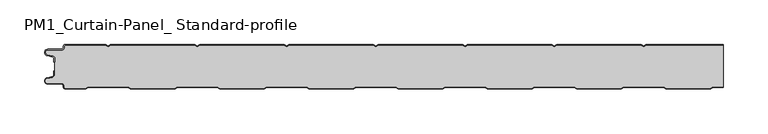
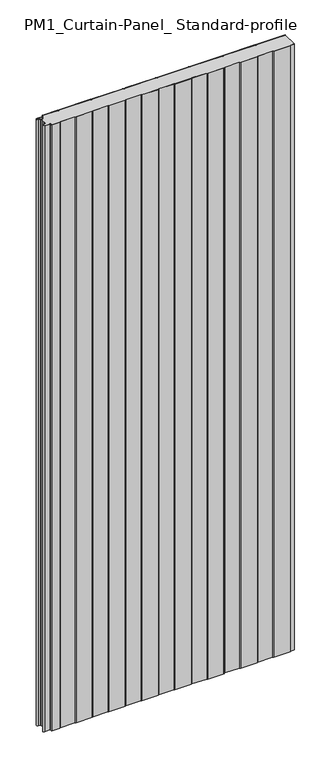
"""IFC4 building model written with IfcOpenShell, lengths in millimetres: plate geometry, PM1_Curtain-Panel_ Standard-profile : ACH_PM1_Acoustic-Sectioning-Panel_50M."""

from ifc_helpers import new_model, si_unit, point, frame_2d, origin, origin_with_axes, place, context, project, spatial, polyline, circle_curve, trimmed, segment, composite_curve, outline, extrude, source, transform, mapped, element, save


def pm1_curtain_panel_standard_profile_199faaa9(model_context):
    return source(origin(), model_context, "Body", "SweptSolid", [
        extrude(outline(composite_curve([segment(trimmed(circle_curve(frame_2d((-377.0119739, -15.878557)), 2.0), [point((-375.0119739, -15.878557))], [point((-376.5620718, -13.9298169))], True, "CARTESIAN"), True, "CONTINUOUS"), segment(polyline([(-376.5620718, -13.9298169), (-382.7217978, -12.507732)]), True, "CONTINUOUS"), segment(trimmed(circle_curve(frame_2d((-381.9119739, -9.0)), 3.6), [point((-382.7217978, -12.507732))], [point((-381.9119739, -5.4))], False, "CARTESIAN"), True, "CONTINUOUS"), segment(polyline([(-381.9119739, -5.4), (-366.4119739, -5.4)]), True, "CONTINUOUS"), segment(trimmed(circle_curve(frame_2d((-366.4119739, -3.4)), 2.0), [point((-366.4119739, -5.4))], [point((-364.4119739, -3.4))], True, "CARTESIAN"), True, "CONTINUOUS"), segment(polyline([(-364.4119739, -3.4), (-364.4119739, -2.0)]), True, "CONTINUOUS"), segment(trimmed(circle_curve(frame_2d((-362.4119739, -2.0)), 2.0), [point((-364.4119739, -2.0))], [point((-362.4119739, 0.0))], False, "CARTESIAN"), True, "CONTINUOUS"), segment(polyline([(-362.4119739, 0.0), (-317.1119734, 0.0), (-314.4119739, -1.5588455), (-311.7119745, 0.0), (-217.1119734, 0.0), (-214.4119739, -1.5588455), (-211.7119745, 0.0), (-117.1119734, 0.0), (-114.4119739, -1.5588455), (-111.7119745, 0.0), (-17.1119734, 0.0), (-14.4119739, -1.5588455), (-11.7119745, 0.0), (82.8880266, 0.0), (85.5880261, -1.5588455), (88.2880255, 0.0), (182.8880266, 0.0), (185.5880261, -1.5588455), (188.2880255, 0.0), (282.8880266, 0.0), (285.5880261, -1.5588455), (288.2880255, 0.0), (375.0119739, 0.0), (375.0119739, -0.8), (288.5023849, -0.8), (285.5880261, -2.482606), (282.6736672, -0.8), (188.5023849, -0.8), (185.5880261, -2.482606), (182.6736672, -0.8), (88.5023849, -0.8), (85.5880261, -2.482606), (82.6736672, -0.8), (-11.4976151, -0.8), (-14.4119739, -2.482606), (-17.3263328, -0.8), (-111.4976151, -0.8), (-114.4119739, -2.482606), (-117.3263328, -0.8), (-211.4976151, -0.8), (-214.4119739, -2.482606), (-217.3263328, -0.8), (-311.4976151, -0.8), (-314.4119739, -2.482606), (-317.3263328, -0.8), (-362.4119739, -0.8)]), True, "CONTINUOUS"), segment(trimmed(circle_curve(frame_2d((-362.4119739, -2.0)), 1.2), [point((-362.4119739, -0.8))], [point((-363.6119739, -2.0))], True, "CARTESIAN"), True, "CONTINUOUS"), segment(polyline([(-363.6119739, -2.0), (-363.6119739, -3.4)]), True, "CONTINUOUS"), segment(trimmed(circle_curve(frame_2d((-366.4119739, -3.4)), 2.8), [point((-363.6119739, -3.4))], [point((-366.4119739, -6.2))], False, "CARTESIAN"), True, "CONTINUOUS"), segment(polyline([(-366.4119739, -6.2), (-381.9119739, -6.2)]), True, "CONTINUOUS"), segment(trimmed(circle_curve(frame_2d((-381.9119739, -9.0)), 2.8), [point((-381.9119739, -6.2))], [point((-382.541837, -11.7282362))], True, "CARTESIAN"), True, "CONTINUOUS"), segment(polyline([(-382.541837, -11.7282362), (-376.3821109, -13.150321)]), True, "CONTINUOUS"), segment(trimmed(circle_curve(frame_2d((-377.0119739, -15.878557)), 2.8), [point((-376.3821109, -13.150321))], [point((-374.2119739, -15.878557))], False, "CARTESIAN"), True, "CONTINUOUS"), segment(polyline([(-374.2119739, -15.878557), (-374.2119739, -20.0), (-375.0119739, -20.0), (-375.0119739, -15.878557)]), True, "CONTINUOUS")], self_intersect=False)), origin_with_axes(), (0.0, 0.0, 1.0), 1945.7507136),
        extrude(outline(composite_curve([segment(polyline([(-374.2119739, -34.121443), (-374.2119739, -15.8785573)]), True, "CONTINUOUS"), segment(trimmed(circle_curve(frame_2d((-377.0119739, -15.8785573)), 2.8), [point((-374.2119739, -15.8785573))], [point((-376.3821109, -13.1503212))], True, "CARTESIAN"), True, "CONTINUOUS"), segment(polyline([(-376.3821109, -13.1503212), (-382.541837, -11.7282362)]), True, "CONTINUOUS"), segment(trimmed(circle_curve(frame_2d((-381.911974, -9.0)), 2.8), [point((-382.541837, -11.7282362))], [point((-381.911974, -6.2))], False, "CARTESIAN"), True, "CONTINUOUS"), segment(polyline([(-381.911974, -6.2), (-366.411974, -6.2)]), True, "CONTINUOUS"), segment(trimmed(circle_curve(frame_2d((-366.411974, -3.4)), 2.8), [point((-366.411974, -6.2))], [point((-363.611974, -3.4))], True, "CARTESIAN"), True, "CONTINUOUS"), segment(polyline([(-363.611974, -3.4), (-363.611974, -2.0)]), True, "CONTINUOUS"), segment(trimmed(circle_curve(frame_2d((-362.411974, -2.0)), 1.2), [point((-363.611974, -2.0))], [point((-362.411974, -0.8))], False, "CARTESIAN"), True, "CONTINUOUS"), segment(polyline([(-362.411974, -0.8), (-317.3263329, -0.8), (-314.411974, -2.482606), (-311.4976152, -0.8), (-217.3263329, -0.8), (-214.411974, -2.482606), (-211.4976152, -0.8), (-117.3263329, -0.8), (-114.411974, -2.482606), (-111.4976152, -0.8), (-17.3263329, -0.8), (-14.411974, -2.482606), (-11.4976152, -0.8), (82.6736671, -0.8), (85.588026, -2.482606), (88.5023848, -0.8), (182.6736671, -0.8), (185.588026, -2.482606), (188.5023848, -0.8), (282.6736671, -0.8), (285.588026, -2.482606), (288.5023848, -0.8), (375.0119739, -0.8), (375.0119739, -47.7), (362.9717445, -47.7), (360.3736669, -49.2), (310.7985382, -49.2), (308.2004606, -47.7), (262.9717445, -47.7), (260.3736669, -49.2), (210.7985382, -49.2), (208.2004606, -47.7), (162.9717445, -47.7), (160.3736669, -49.2), (110.7985382, -49.2), (108.2004606, -47.7), (62.9717445, -47.7), (60.3736669, -49.2), (10.7985382, -49.2), (8.2004606, -47.7), (-37.0282555, -47.7), (-39.6263331, -49.2), (-89.2014618, -49.2), (-91.7995394, -47.7), (-137.0282555, -47.7), (-139.6263331, -49.2), (-189.2014618, -49.2), (-191.7995394, -47.7), (-237.0282555, -47.7), (-239.6263331, -49.2), (-289.2014618, -49.2), (-291.7995394, -47.7), (-337.0282555, -47.7), (-339.6263331, -49.2), (-362.4119739, -49.2)]), True, "CONTINUOUS"), segment(trimmed(circle_curve(frame_2d((-362.4119739, -48.0)), 1.2), [point((-362.4119739, -49.2))], [point((-363.6119739, -48.0))], False, "CARTESIAN"), True, "CONTINUOUS"), segment(polyline([(-363.6119739, -48.0), (-363.6119739, -46.5999998)]), True, "CONTINUOUS"), segment(trimmed(circle_curve(frame_2d((-366.4119739, -46.5999998)), 2.8), [point((-363.6119739, -46.5999998))], [point((-366.4119739, -43.7999998))], True, "CARTESIAN"), True, "CONTINUOUS"), segment(polyline([(-366.4119739, -43.7999998), (-381.9119739, -43.7999998)]), True, "CONTINUOUS"), segment(trimmed(circle_curve(frame_2d((-381.9119739, -41.0)), 2.7999998), [point((-381.9119739, -43.7999998))], [point((-382.5418369, -38.271764))], False, "CARTESIAN"), True, "CONTINUOUS"), segment(polyline([(-382.5418369, -38.271764), (-376.3821109, -36.8496792)]), True, "CONTINUOUS"), segment(trimmed(circle_curve(frame_2d((-377.0119739, -34.121443)), 2.8), [point((-376.3821109, -36.8496792))], [point((-374.2119739, -34.121443))], True, "CARTESIAN"), True, "CONTINUOUS")], self_intersect=False)), origin_with_axes(), (0.0, 0.0, 1.0), 1945.7507136),
        extrude(outline(composite_curve([segment(trimmed(circle_curve(frame_2d((-362.4119739, -48.0)), 2.0), [point((-362.4119739, -50.0))], [point((-364.4119739, -48.0))], False, "CARTESIAN"), True, "CONTINUOUS"), segment(polyline([(-364.4119739, -48.0), (-364.4119739, -46.6)]), True, "CONTINUOUS"), segment(trimmed(circle_curve(frame_2d((-366.4119739, -46.6)), 2.0), [point((-364.4119739, -46.6))], [point((-366.4119739, -44.6))], True, "CARTESIAN"), True, "CONTINUOUS"), segment(polyline([(-366.4119739, -44.6), (-381.9119739, -44.6)]), True, "CONTINUOUS"), segment(trimmed(circle_curve(frame_2d((-381.9119739, -41.0)), 3.6), [point((-381.9119739, -44.6))], [point((-382.7217979, -37.4922678))], False, "CARTESIAN"), True, "CONTINUOUS"), segment(polyline([(-382.7217979, -37.4922678), (-376.5620718, -36.070183)]), True, "CONTINUOUS"), segment(trimmed(circle_curve(frame_2d((-377.0119739, -34.121443)), 2.0), [point((-376.5620718, -36.070183))], [point((-375.0119739, -34.121443))], True, "CARTESIAN"), True, "CONTINUOUS"), segment(polyline([(-375.0119739, -34.121443), (-375.0119739, -30.0), (-374.2119739, -30.0), (-374.2119739, -34.121443)]), True, "CONTINUOUS"), segment(trimmed(circle_curve(frame_2d((-377.0119739, -34.121443)), 2.8), [point((-374.2119739, -34.121443))], [point((-376.3821109, -36.8496792))], False, "CARTESIAN"), True, "CONTINUOUS"), segment(polyline([(-376.3821109, -36.8496792), (-382.5418369, -38.271764)]), True, "CONTINUOUS"), segment(trimmed(circle_curve(frame_2d((-381.9119739, -41.0)), 2.8), [point((-382.5418369, -38.271764))], [point((-381.9119739, -43.8))], True, "CARTESIAN"), True, "CONTINUOUS"), segment(polyline([(-381.9119739, -43.8), (-366.4119739, -43.8)]), True, "CONTINUOUS"), segment(trimmed(circle_curve(frame_2d((-366.4119739, -46.6)), 2.8), [point((-366.4119739, -43.8))], [point((-363.6119739, -46.6))], False, "CARTESIAN"), True, "CONTINUOUS"), segment(polyline([(-363.6119739, -46.6), (-363.6119739, -48.0)]), True, "CONTINUOUS"), segment(trimmed(circle_curve(frame_2d((-362.4119739, -48.0)), 1.2), [point((-363.6119739, -48.0))], [point((-362.4119739, -49.2))], True, "CARTESIAN"), True, "CONTINUOUS"), segment(polyline([(-362.4119739, -49.2), (-339.6263331, -49.2), (-337.0282555, -47.7), (-291.7995394, -47.7), (-289.2014618, -49.2), (-239.6263331, -49.2), (-237.0282555, -47.7), (-191.7995394, -47.7), (-189.2014618, -49.2), (-139.6263331, -49.2), (-137.0282555, -47.7), (-91.7995394, -47.7), (-89.2014618, -49.2), (-39.6263331, -49.2), (-37.0282555, -47.7), (8.2004606, -47.7), (10.7985382, -49.2), (60.3736669, -49.2), (62.9717445, -47.7), (108.2004606, -47.7), (110.7985382, -49.2), (160.3736669, -49.2), (162.9717445, -47.7), (208.2004606, -47.7), (210.7985382, -49.2), (260.3736669, -49.2), (262.9717445, -47.7), (308.2004606, -47.7), (310.7985382, -49.2), (360.3736669, -49.2), (362.9717445, -47.7), (375.0119739, -47.7), (375.0119739, -48.5), (363.1861037, -48.5), (360.5880261, -50.0), (310.584179, -50.0), (307.9861014, -48.5), (263.1861037, -48.5), (260.5880261, -50.0), (210.584179, -50.0), (207.9861014, -48.5), (163.1861037, -48.5), (160.5880261, -50.0), (110.584179, -50.0), (107.9861014, -48.5), (63.1861037, -48.5), (60.5880261, -50.0), (10.584179, -50.0), (7.9861014, -48.5), (-36.8138963, -48.5), (-39.4119739, -50.0), (-89.415821, -50.0), (-92.0138986, -48.5), (-136.8138963, -48.5), (-139.4119739, -50.0), (-189.415821, -50.0), (-192.0138986, -48.5), (-236.8138963, -48.5), (-239.4119739, -50.0), (-289.415821, -50.0), (-292.0138986, -48.5), (-336.8138963, -48.5), (-339.4119739, -50.0), (-362.4119739, -50.0)]), True, "CONTINUOUS")], self_intersect=False)), origin_with_axes(), (0.0, 0.0, 1.0), 1945.7507136),
    ])


if __name__ == "__main__":
    model = new_model("IFC4")
    model_context = context("Model", 3, world=origin())
    ifc_project = project(units=[si_unit("LENGTHUNIT", "METRE", prefix="MILLI")], contexts=[model_context])
    site = spatial("IfcSite", under=ifc_project)
    building = spatial("IfcBuilding", under=site)
    placement = place(None, origin())
    pm1_curtain_panel_standard_profile_shape = pm1_curtain_panel_standard_profile_199faaa9(model_context)
    element("IfcPlate", 1, ObjectType="PM1_Curtain-Panel_ Standard-profile : ACH_PM1_Acoustic-Sectioning-Panel_50M", at=placement, inside=building, context=model_context, shape_type="MappedRepresentation", body=[
        mapped(pm1_curtain_panel_standard_profile_shape, transform((0.0, 0.0, 0.0), x_axis=(1.0, 0.0, 0.0), y_axis=(0.0, 1.0, 0.0), z_axis=(0.0, 0.0, 1.0))),
    ])
    save(model, "model.ifc")
